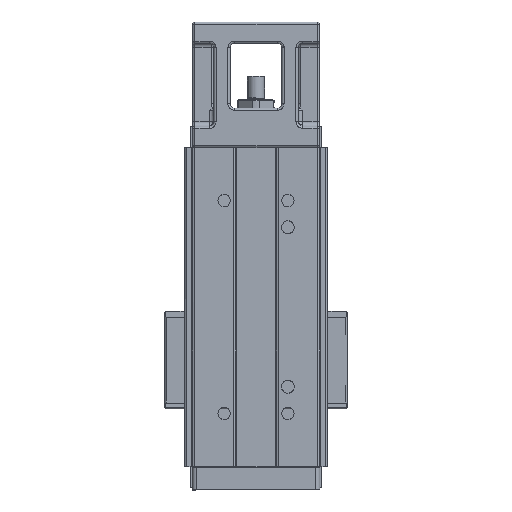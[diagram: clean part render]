
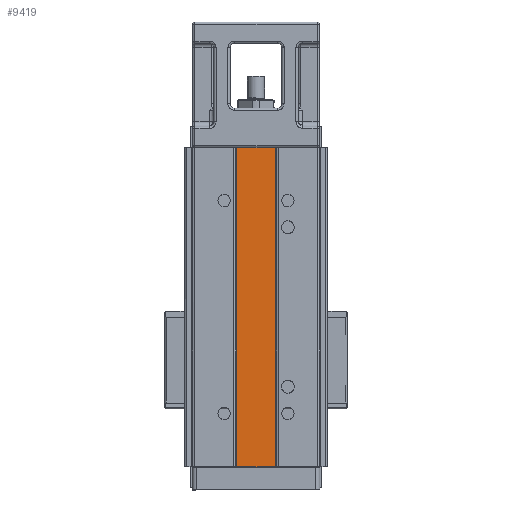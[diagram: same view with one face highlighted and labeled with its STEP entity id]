
A CAD part, front view. The second image highlights one B-rep face of the part: STEP entity #9419.
In plain terms, the highlighted planar face has unit normal (0, -1, 0).
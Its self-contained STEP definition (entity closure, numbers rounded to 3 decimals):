
#634 = ORIENTED_EDGE ( 'NONE', *, *, #12665, .F. ) ;
#2806 = AXIS2_PLACEMENT_3D ( 'NONE', #45237, #17194, #49946 ) ;
#8082 = EDGE_CURVE ( 'NONE', #11830, #43492, #32824, .T. ) ;
#9419 = ADVANCED_FACE ( 'NONE', ( #37099 ), #35834, .F. ) ;
#11830 = VERTEX_POINT ( 'NONE', #14878 ) ;
#12665 = EDGE_CURVE ( 'NONE', #11830, #32487, #47890, .T. ) ;
#14878 = CARTESIAN_POINT ( 'NONE',  ( -8.986, 0.6, -150. ) ) ;
#15305 = ORIENTED_EDGE ( 'NONE', *, *, #25660, .F. ) ;
#16117 = ORIENTED_EDGE ( 'NONE', *, *, #8082, .T. ) ;
#16615 = CARTESIAN_POINT ( 'NONE',  ( -8.986, 0.6, 0. ) ) ;
#17194 = DIRECTION ( 'NONE',  ( 0., 1., 0. ) ) ;
#19134 = CARTESIAN_POINT ( 'NONE',  ( 8.986, 0.6, 0. ) ) ;
#21815 = VECTOR ( 'NONE', #25979, 1000. ) ;
#24967 = VECTOR ( 'NONE', #47739, 1000. ) ;
#25660 = EDGE_CURVE ( 'NONE', #44208, #43492, #45993, .T. ) ;
#25979 = DIRECTION ( 'NONE',  ( 1., 0., 0. ) ) ;
#30768 = DIRECTION ( 'NONE',  ( 0., 0., 1. ) ) ;
#32487 = VERTEX_POINT ( 'NONE', #53225 ) ;
#32824 = LINE ( 'NONE', #58628, #21815 ) ;
#32855 = CARTESIAN_POINT ( 'NONE',  ( 8.986, 0.6, -150. ) ) ;
#35468 = VECTOR ( 'NONE', #30768, 1000. ) ;
#35834 = PLANE ( 'NONE',  #2806 ) ;
#37099 = FACE_OUTER_BOUND ( 'NONE', #43648, .T. ) ;
#38950 = CARTESIAN_POINT ( 'NONE',  ( 0., 0.6, 0. ) ) ;
#42934 = CARTESIAN_POINT ( 'NONE',  ( 8.986, 0.6, 0. ) ) ;
#43492 = VERTEX_POINT ( 'NONE', #32855 ) ;
#43648 = EDGE_LOOP ( 'NONE', ( #57190, #634, #16117, #15305 ) ) ;
#44208 = VERTEX_POINT ( 'NONE', #42934 ) ;
#44509 = VECTOR ( 'NONE', #47196, 1000. ) ;
#45237 = CARTESIAN_POINT ( 'NONE',  ( 9.4, 0.6, 0. ) ) ;
#45993 = LINE ( 'NONE', #19134, #44509 ) ;
#47196 = DIRECTION ( 'NONE',  ( 0., 0., -1. ) ) ;
#47739 = DIRECTION ( 'NONE',  ( 1., 0., 0. ) ) ;
#47890 = LINE ( 'NONE', #16615, #35468 ) ;
#47980 = EDGE_CURVE ( 'NONE', #32487, #44208, #51302, .T. ) ;
#49946 = DIRECTION ( 'NONE',  ( 0., 0., 1. ) ) ;
#51302 = LINE ( 'NONE', #38950, #24967 ) ;
#53225 = CARTESIAN_POINT ( 'NONE',  ( -8.986, 0.6, 0. ) ) ;
#57190 = ORIENTED_EDGE ( 'NONE', *, *, #47980, .F. ) ;
#58628 = CARTESIAN_POINT ( 'NONE',  ( 0., 0.6, -150. ) ) ;
